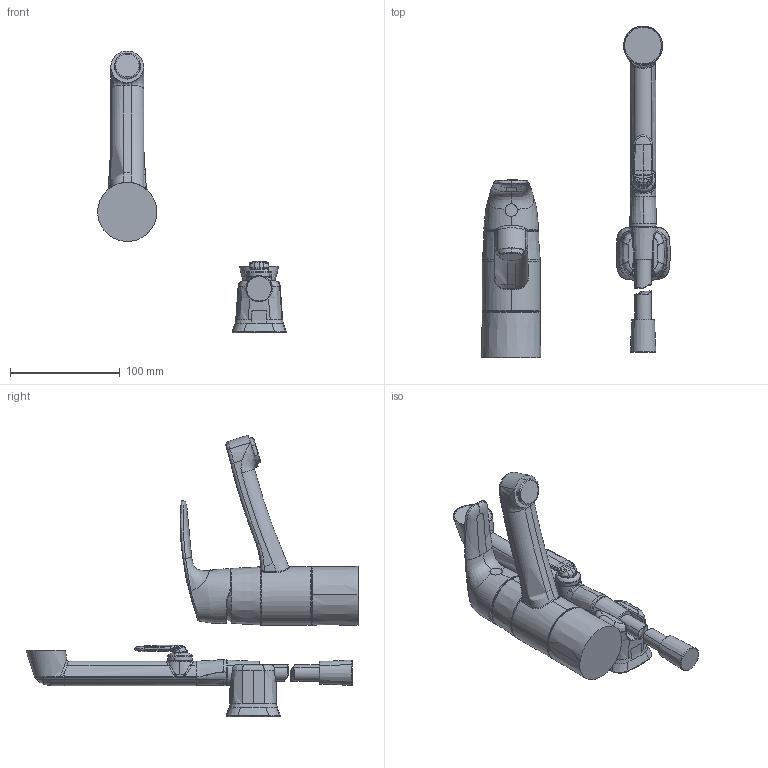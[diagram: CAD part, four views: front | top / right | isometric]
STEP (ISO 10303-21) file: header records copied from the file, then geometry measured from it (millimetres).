
FILE_DESCRIPTION (( 'STEP AP203' ), '1' );
FILE_NAME ('1021F(2023).STEP', '2023-10-11T08:33:02', ( '' ), ( '' ), 'SwSTEP 2.0', 'SolidWorks 2016', '' );
FILE_SCHEMA (( 'CONFIG_CONTROL_DESIGN' ));
Length unit declared in the file: millimetre
Products named in the file (1): 1021F(2023)
Bounding box: 171.5 x 302 x 256.38 mm (x, y, z)
Volume: 600499 mm3; surface area: 94527.7 mm2
Topology: 11 solids, 11 shells, 369 faces, 889 edges, 542 vertices
Faces by surface type: bspline 264, cone 29, plane 28, torus 24, cylinder 24
Entity records: 74894 total; most frequent: CARTESIAN_POINT 68421, ORIENTED_EDGE 1774, EDGE_CURVE 887, DIRECTION 713, VERTEX_POINT 542, B_SPLINE_CURVE_WITH_KNOTS 483, EDGE_LOOP 371, ADVANCED_FACE 369
